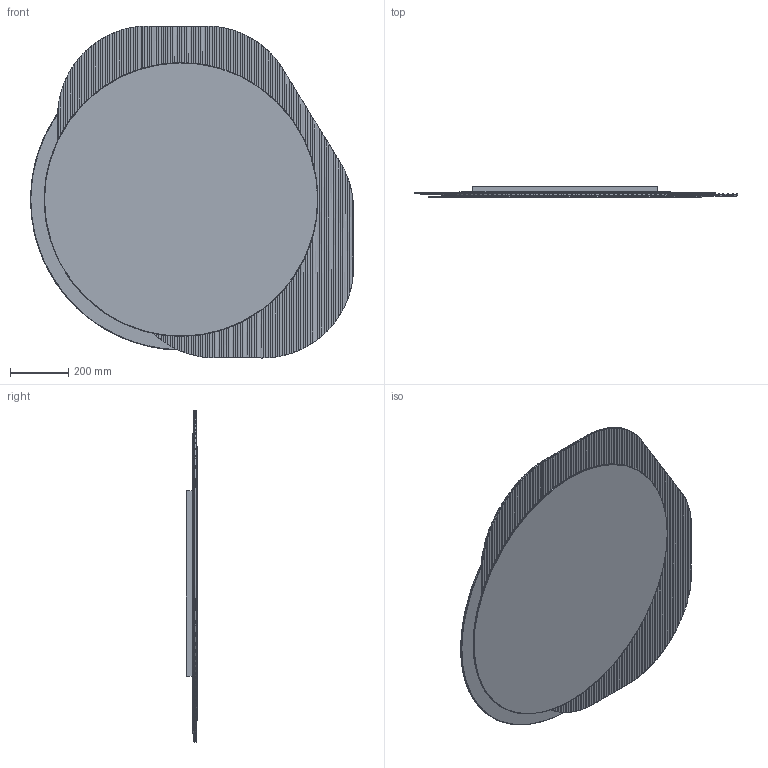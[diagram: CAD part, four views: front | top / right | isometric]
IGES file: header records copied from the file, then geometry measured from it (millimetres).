
Global section: file name: C:\Users\l.marzoli\Desktop\3D_2024\x-web\SHIFT-mirror\111x114\3D_SHIFT-mirror-114.igs; native system: Rhinoceros ( Aug 11 2021 ); preprocessor: Trout Lake IGES 012 Aug 11 2021; date: 240429.163616; units: millimetre
Bounding box: 1109.19 x 38.55 x 1140 mm (x, y, z)
Surface area: 5405299.5 mm2 (no closed solid volume)
Topology: 0 solids, 0 shells, 543 faces, 6597 edges, 6589 vertices
Faces by surface type: bspline 543
